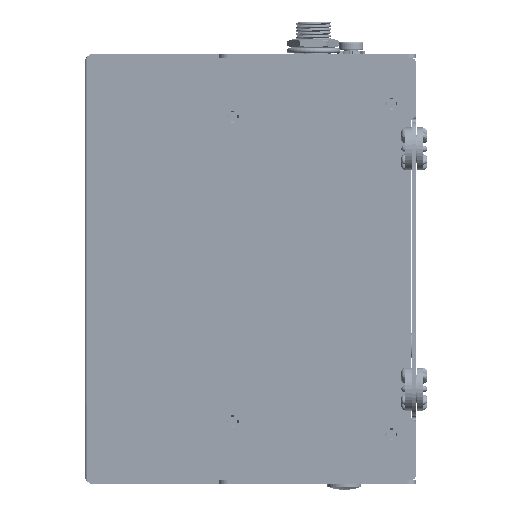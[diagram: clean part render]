
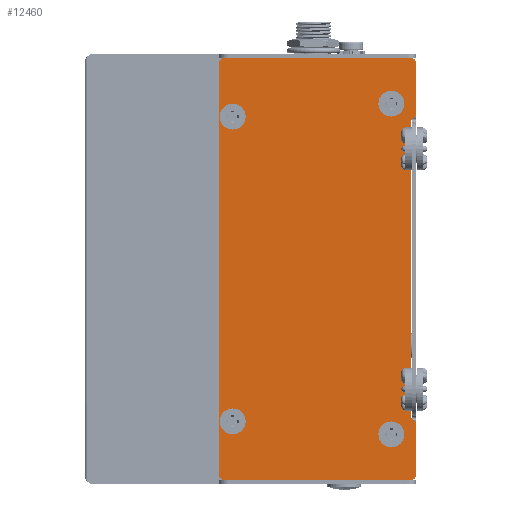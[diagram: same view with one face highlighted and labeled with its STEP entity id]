
A CAD part, left-side view. The second image highlights one B-rep face of the part: STEP entity #12460.
In plain terms, the highlighted planar face has unit normal (-1, 0, 0).
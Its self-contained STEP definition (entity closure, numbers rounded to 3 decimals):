
#11985=CARTESIAN_POINT('',(-63.,10.9,-78.9));
#11986=DIRECTION('',(1.,0.,0.));
#11987=DIRECTION('',(0.,1.,0.));
#11988=AXIS2_PLACEMENT_3D('',#11985,#11986,#11987);
#11990=CARTESIAN_POINT('',(-63.,10.9,-78.9));
#11991=DIRECTION('',(1.,0.,0.));
#11992=DIRECTION('',(0.,-1.,0.));
#11993=AXIS2_PLACEMENT_3D('',#11990,#11991,#11992);
#11995=CARTESIAN_POINT('',(-63.,-24.5,-81.8));
#11996=DIRECTION('',(1.,0.,0.));
#11997=DIRECTION('',(0.,-1.,0.));
#11998=AXIS2_PLACEMENT_3D('',#11995,#11996,#11997);
#12000=CARTESIAN_POINT('',(-63.,-24.5,-81.8));
#12001=DIRECTION('',(1.,0.,0.));
#12002=DIRECTION('',(0.,1.,0.));
#12003=AXIS2_PLACEMENT_3D('',#12000,#12001,#12002);
#12005=CARTESIAN_POINT('',(-63.,-24.5,-8.));
#12006=DIRECTION('',(1.,0.,0.));
#12007=DIRECTION('',(0.,1.,0.));
#12008=AXIS2_PLACEMENT_3D('',#12005,#12006,#12007);
#12010=CARTESIAN_POINT('',(-63.,-24.5,-8.));
#12011=DIRECTION('',(1.,0.,0.));
#12012=DIRECTION('',(0.,-1.,0.));
#12013=AXIS2_PLACEMENT_3D('',#12010,#12011,#12012);
#12015=CARTESIAN_POINT('',(-63.,10.9,-10.9));
#12016=DIRECTION('',(1.,0.,0.));
#12017=DIRECTION('',(0.,1.,0.));
#12018=AXIS2_PLACEMENT_3D('',#12015,#12016,#12017);
#12020=CARTESIAN_POINT('',(-63.,10.9,-10.9));
#12021=DIRECTION('',(1.,0.,0.));
#12022=DIRECTION('',(0.,-1.,0.));
#12023=AXIS2_PLACEMENT_3D('',#12020,#12021,#12022);
#12025=DIRECTION('',(0.,0.,-1.));
#12026=VECTOR('',#12025,11.7);
#12027=CARTESIAN_POINT('',(-63.,-30.,1.1));
#12028=LINE('',#12027,#12026);
#12029=DIRECTION('',(0.,0.,-1.));
#12030=VECTOR('',#12029,66.4);
#12031=CARTESIAN_POINT('',(-63.,-28.9,-11.7));
#12032=LINE('',#12031,#12030);
#12033=DIRECTION('',(0.,0.,-1.));
#12034=VECTOR('',#12033,11.7);
#12035=CARTESIAN_POINT('',(-63.,-30.,-79.2));
#12036=LINE('',#12035,#12034);
#12037=CARTESIAN_POINT('',(-63.,-29.,-90.9));
#12038=DIRECTION('',(-1.,0.,0.));
#12039=DIRECTION('',(0.,0.,-1.));
#12040=AXIS2_PLACEMENT_3D('',#12037,#12038,#12039);
#12042=DIRECTION('',(0.,1.,0.));
#12043=VECTOR('',#12042,41.9);
#12044=CARTESIAN_POINT('',(-63.,-29.,-91.9));
#12045=LINE('',#12044,#12043);
#12046=CARTESIAN_POINT('',(-63.,12.9,-90.9));
#12047=DIRECTION('',(-1.,0.,0.));
#12048=DIRECTION('',(0.,1.,0.));
#12049=AXIS2_PLACEMENT_3D('',#12046,#12047,#12048);
#12051=DIRECTION('',(0.,0.,1.));
#12052=VECTOR('',#12051,92.);
#12053=CARTESIAN_POINT('',(-63.,13.9,-90.9));
#12054=LINE('',#12053,#12052);
#12055=CARTESIAN_POINT('',(-63.,12.9,1.1));
#12056=DIRECTION('',(-1.,0.,0.));
#12057=DIRECTION('',(0.,0.,1.));
#12058=AXIS2_PLACEMENT_3D('',#12055,#12056,#12057);
#12060=DIRECTION('',(0.,-1.,0.));
#12061=VECTOR('',#12060,41.9);
#12062=CARTESIAN_POINT('',(-63.,12.9,2.1));
#12063=LINE('',#12062,#12061);
#12064=CARTESIAN_POINT('',(-63.,-29.,1.1));
#12065=DIRECTION('',(-1.,0.,0.));
#12066=DIRECTION('',(0.,-1.,0.));
#12067=AXIS2_PLACEMENT_3D('',#12064,#12065,#12066);
#12176=DIRECTION('',(0.,0.707,0.707));
#12177=VECTOR('',#12176,1.556);
#12178=CARTESIAN_POINT('',(-63.,-30.,-79.2));
#12179=LINE('',#12178,#12177);
#12192=DIRECTION('',(0.,-0.707,0.707));
#12193=VECTOR('',#12192,1.556);
#12194=CARTESIAN_POINT('',(-63.,-28.9,-11.7));
#12195=LINE('',#12194,#12193);
#12240=CARTESIAN_POINT('',(-63.,13.793,-78.9));
#12241=CARTESIAN_POINT('',(-63.,8.007,-78.9));
#12242=VERTEX_POINT('',#12240);
#12243=VERTEX_POINT('',#12241);
#12248=CARTESIAN_POINT('',(-63.,-27.393,-81.8));
#12249=CARTESIAN_POINT('',(-63.,-21.607,-81.8));
#12250=VERTEX_POINT('',#12248);
#12251=VERTEX_POINT('',#12249);
#12256=CARTESIAN_POINT('',(-63.,-21.607,-8.));
#12257=CARTESIAN_POINT('',(-63.,-27.393,-8.));
#12258=VERTEX_POINT('',#12256);
#12259=VERTEX_POINT('',#12257);
#12264=CARTESIAN_POINT('',(-63.,13.793,-10.9));
#12265=CARTESIAN_POINT('',(-63.,8.007,-10.9));
#12266=VERTEX_POINT('',#12264);
#12267=VERTEX_POINT('',#12265);
#12276=CARTESIAN_POINT('',(-63.,13.9,-90.9));
#12277=VERTEX_POINT('',#12276);
#12278=CARTESIAN_POINT('',(-63.,12.9,-91.9));
#12279=VERTEX_POINT('',#12278);
#12284=CARTESIAN_POINT('',(-63.,12.9,2.1));
#12285=VERTEX_POINT('',#12284);
#12286=CARTESIAN_POINT('',(-63.,13.9,1.1));
#12287=VERTEX_POINT('',#12286);
#12292=CARTESIAN_POINT('',(-63.,-30.,1.1));
#12293=VERTEX_POINT('',#12292);
#12294=CARTESIAN_POINT('',(-63.,-29.,2.1));
#12295=VERTEX_POINT('',#12294);
#12300=CARTESIAN_POINT('',(-63.,-29.,-91.9));
#12301=VERTEX_POINT('',#12300);
#12302=CARTESIAN_POINT('',(-63.,-30.,-90.9));
#12303=VERTEX_POINT('',#12302);
#12304=CARTESIAN_POINT('',(-63.,-30.,-79.2));
#12306=VERTEX_POINT('',#12304);
#12308=CARTESIAN_POINT('',(-63.,-28.9,-78.1));
#12310=VERTEX_POINT('',#12308);
#12312=CARTESIAN_POINT('',(-63.,-28.9,-11.7));
#12314=VERTEX_POINT('',#12312);
#12316=CARTESIAN_POINT('',(-63.,-30.,-10.6));
#12318=VERTEX_POINT('',#12316);
#12406=CARTESIAN_POINT('',(-63.,5.9,74.2));
#12407=DIRECTION('',(-1.,0.,0.));
#12408=DIRECTION('',(0.,0.,1.));
#12409=AXIS2_PLACEMENT_3D('',#12406,#12407,#12408);
#12410=PLANE('',#12409);
#12412=ORIENTED_EDGE('',*,*,#12411,.T.);
#12414=ORIENTED_EDGE('',*,*,#12413,.F.);
#12416=ORIENTED_EDGE('',*,*,#12415,.T.);
#12418=ORIENTED_EDGE('',*,*,#12417,.F.);
#12420=ORIENTED_EDGE('',*,*,#12419,.T.);
#12422=ORIENTED_EDGE('',*,*,#12421,.F.);
#12424=ORIENTED_EDGE('',*,*,#12423,.T.);
#12426=ORIENTED_EDGE('',*,*,#12425,.F.);
#12428=ORIENTED_EDGE('',*,*,#12427,.T.);
#12430=ORIENTED_EDGE('',*,*,#12429,.F.);
#12432=ORIENTED_EDGE('',*,*,#12431,.T.);
#12434=ORIENTED_EDGE('',*,*,#12433,.F.);
#12435=EDGE_LOOP('',(#12412,#12414,#12416,#12418,#12420,#12422,#12424,#12426,
#12428,#12430,#12432,#12434));
#12436=FACE_OUTER_BOUND('',#12435,.F.);
#12438=ORIENTED_EDGE('',*,*,#12437,.F.);
#12439=ORIENTED_EDGE('',*,*,#12396,.F.);
#12440=EDGE_LOOP('',(#12438,#12439));
#12441=FACE_BOUND('',#12440,.F.);
#12443=ORIENTED_EDGE('',*,*,#12442,.F.);
#12445=ORIENTED_EDGE('',*,*,#12444,.F.);
#12446=EDGE_LOOP('',(#12443,#12445));
#12447=FACE_BOUND('',#12446,.F.);
#12449=ORIENTED_EDGE('',*,*,#12448,.F.);
#12451=ORIENTED_EDGE('',*,*,#12450,.F.);
#12452=EDGE_LOOP('',(#12449,#12451));
#12453=FACE_BOUND('',#12452,.F.);
#12455=ORIENTED_EDGE('',*,*,#12454,.F.);
#12457=ORIENTED_EDGE('',*,*,#12456,.F.);
#12458=EDGE_LOOP('',(#12455,#12457));
#12459=FACE_BOUND('',#12458,.F.);
#12460=ADVANCED_FACE('',(#12436,#12441,#12447,#12453,#12459),#12410,.T.);
#11989=CIRCLE('',#11988,2.893);
#11994=CIRCLE('',#11993,2.893);
#11999=CIRCLE('',#11998,2.893);
#12004=CIRCLE('',#12003,2.893);
#12009=CIRCLE('',#12008,2.893);
#12014=CIRCLE('',#12013,2.893);
#12019=CIRCLE('',#12018,2.893);
#12024=CIRCLE('',#12023,2.893);
#12041=CIRCLE('',#12040,1.);
#12050=CIRCLE('',#12049,1.);
#12059=CIRCLE('',#12058,1.);
#12068=CIRCLE('',#12067,1.);
#12396=EDGE_CURVE('',#12251,#12250,#12004,.T.);
#12411=EDGE_CURVE('',#12293,#12318,#12028,.T.);
#12413=EDGE_CURVE('',#12314,#12318,#12195,.T.);
#12415=EDGE_CURVE('',#12314,#12310,#12032,.T.);
#12417=EDGE_CURVE('',#12306,#12310,#12179,.T.);
#12419=EDGE_CURVE('',#12306,#12303,#12036,.T.);
#12421=EDGE_CURVE('',#12301,#12303,#12041,.T.);
#12423=EDGE_CURVE('',#12301,#12279,#12045,.T.);
#12425=EDGE_CURVE('',#12277,#12279,#12050,.T.);
#12427=EDGE_CURVE('',#12277,#12287,#12054,.T.);
#12429=EDGE_CURVE('',#12285,#12287,#12059,.T.);
#12431=EDGE_CURVE('',#12285,#12295,#12063,.T.);
#12433=EDGE_CURVE('',#12293,#12295,#12068,.T.);
#12437=EDGE_CURVE('',#12250,#12251,#11999,.T.);
#12442=EDGE_CURVE('',#12258,#12259,#12009,.T.);
#12444=EDGE_CURVE('',#12259,#12258,#12014,.T.);
#12448=EDGE_CURVE('',#12266,#12267,#12019,.T.);
#12450=EDGE_CURVE('',#12267,#12266,#12024,.T.);
#12454=EDGE_CURVE('',#12242,#12243,#11989,.T.);
#12456=EDGE_CURVE('',#12243,#12242,#11994,.T.);
